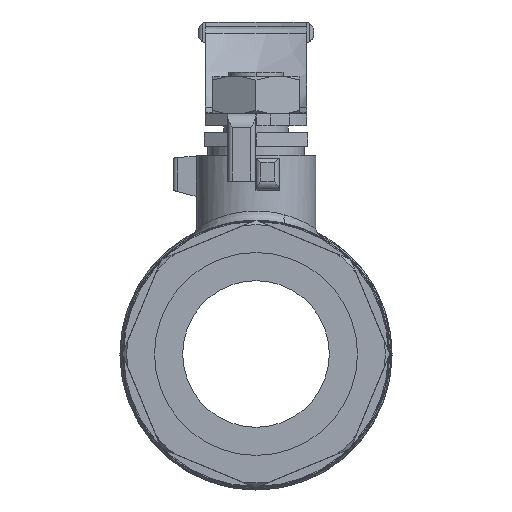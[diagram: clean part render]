
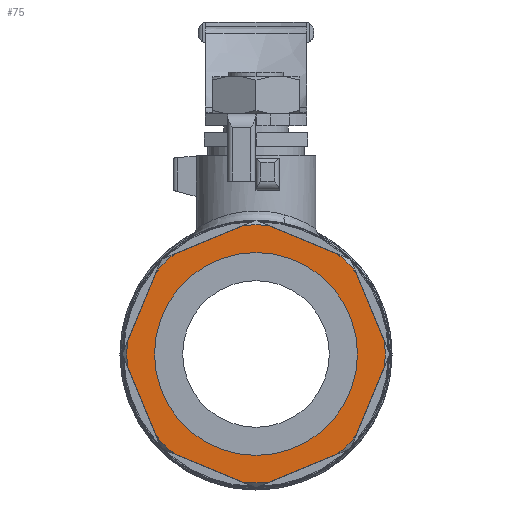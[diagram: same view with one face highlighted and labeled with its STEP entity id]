
A CAD part, left-side view. The second image highlights one B-rep face of the part: STEP entity #75.
In plain terms, the highlighted planar face has unit normal (-1, 0, 0).
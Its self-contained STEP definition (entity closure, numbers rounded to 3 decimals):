
#75=ADVANCED_FACE('',(#580,#581),#579,.T.);
#579=PLANE('',#2337);
#580=FACE_OUTER_BOUND('',#2338,.T.);
#581=FACE_BOUND('',#2339,.T.);
#2334=CARTESIAN_POINT('',(-48.,-33.757,-33.757));
#2335=DIRECTION('',(-1.,0.,0.));
#2336=DIRECTION('',(0.,0.,1.));
#2337=AXIS2_PLACEMENT_3D('',#2334,#2335,#2336);
#2338=EDGE_LOOP('',(#3949,#3950,#3951,#3952,#3953,#3954,#3955,#3956,#3957,#3958,#3959,#3960,#3961,#3962,#3963,#3964));
#2339=EDGE_LOOP('',(#3965,#3966));
#3949=ORIENTED_EDGE('',*,*,#4891,.F.);
#3950=ORIENTED_EDGE('',*,*,#4892,.T.);
#3951=ORIENTED_EDGE('',*,*,#4795,.F.);
#3952=ORIENTED_EDGE('',*,*,#4893,.T.);
#3953=ORIENTED_EDGE('',*,*,#4894,.F.);
#3954=ORIENTED_EDGE('',*,*,#4895,.T.);
#3955=ORIENTED_EDGE('',*,*,#4896,.F.);
#3956=ORIENTED_EDGE('',*,*,#4897,.T.);
#3957=ORIENTED_EDGE('',*,*,#4784,.F.);
#3958=ORIENTED_EDGE('',*,*,#4898,.T.);
#3959=ORIENTED_EDGE('',*,*,#4899,.F.);
#3960=ORIENTED_EDGE('',*,*,#4900,.T.);
#3961=ORIENTED_EDGE('',*,*,#4901,.F.);
#3962=ORIENTED_EDGE('',*,*,#4793,.T.);
#3963=ORIENTED_EDGE('',*,*,#4803,.F.);
#3964=ORIENTED_EDGE('',*,*,#4902,.T.);
#3965=ORIENTED_EDGE('',*,*,#4903,.T.);
#3966=ORIENTED_EDGE('',*,*,#4904,.T.);
#4784=EDGE_CURVE('',#5697,#5704,#5705,.T.);
#4793=EDGE_CURVE('',#5753,#5760,#5767,.T.);
#4795=EDGE_CURVE('',#5774,#5781,#5782,.T.);
#4803=EDGE_CURVE('',#5830,#5760,#5837,.T.);
#4891=EDGE_CURVE('',#6435,#6436,#6437,.T.);
#4892=EDGE_CURVE('',#6435,#5781,#6443,.T.);
#4893=EDGE_CURVE('',#5774,#6449,#6450,.T.);
#4894=EDGE_CURVE('',#6456,#6449,#6457,.T.);
#4895=EDGE_CURVE('',#6456,#6463,#6464,.T.);
#4896=EDGE_CURVE('',#6470,#6463,#6471,.T.);
#4897=EDGE_CURVE('',#6470,#5704,#6477,.T.);
#4898=EDGE_CURVE('',#5697,#6483,#6484,.T.);
#4899=EDGE_CURVE('',#6490,#6483,#6491,.T.);
#4900=EDGE_CURVE('',#6490,#6497,#6498,.T.);
#4901=EDGE_CURVE('',#5753,#6497,#6504,.T.);
#4902=EDGE_CURVE('',#5830,#6436,#6510,.T.);
#4903=EDGE_CURVE('',#6516,#6517,#6518,.T.);
#4904=EDGE_CURVE('',#6517,#6516,#6524,.T.);
#5697=VERTEX_POINT('',#8865);
#5704=VERTEX_POINT('',#8870);
#5705=LINE('',#8871,#8872);
#5753=VERTEX_POINT('',#8904);
#5760=VERTEX_POINT('',#8909);
#5767=CIRCLE('',#8917,27.995);
#5774=VERTEX_POINT('',#8919);
#5781=VERTEX_POINT('',#8924);
#5782=LINE('',#8925,#8926);
#5830=VERTEX_POINT('',#8959);
#5837=LINE('',#8964,#8965);
#6435=VERTEX_POINT('',#9362);
#6436=VERTEX_POINT('',#9363);
#6437=LINE('',#9364,#9365);
#6443=CIRCLE('',#9370,27.995);
#6449=VERTEX_POINT('',#9371);
#6450=CIRCLE('',#9375,27.995);
#6456=VERTEX_POINT('',#9376);
#6457=LINE('',#9377,#9378);
#6463=VERTEX_POINT('',#9380);
#6464=CIRCLE('',#9384,27.995);
#6470=VERTEX_POINT('',#9385);
#6471=LINE('',#9386,#9387);
#6477=CIRCLE('',#9392,27.995);
#6483=VERTEX_POINT('',#9393);
#6484=CIRCLE('',#9397,27.995);
#6490=VERTEX_POINT('',#9398);
#6491=LINE('',#9399,#9400);
#6497=VERTEX_POINT('',#9402);
#6498=CIRCLE('',#9406,27.995);
#6504=LINE('',#9407,#9408);
#6510=CIRCLE('',#9413,27.995);
#6516=VERTEX_POINT('',#9414);
#6517=VERTEX_POINT('',#9415);
#6518=CIRCLE('',#9419,22.005);
#6524=CIRCLE('',#9423,22.005);
#8865=CARTESIAN_POINT('',(-48.,-2.756,27.859));
#8870=CARTESIAN_POINT('',(-48.,-17.75,21.648));
#8871=CARTESIAN_POINT('',(-48.,-2.756,27.859));
#8872=VECTOR('',#8873,16.23);
#8873=DIRECTION('',(0.,-0.924,-0.383));
#8904=CARTESIAN_POINT('',(-48.,27.859,2.756));
#8909=CARTESIAN_POINT('',(-48.,27.859,-2.756));
#8914=CARTESIAN_POINT('',(-48.,0.,0.));
#8915=DIRECTION('',(-1.,0.,0.));
#8916=DIRECTION('',(0.,0.,-1.));
#8917=AXIS2_PLACEMENT_3D('',#8914,#8915,#8916);
#8919=CARTESIAN_POINT('',(-48.,-17.75,-21.648));
#8924=CARTESIAN_POINT('',(-48.,-2.756,-27.859));
#8925=CARTESIAN_POINT('',(-48.,-17.75,-21.648));
#8926=VECTOR('',#8927,16.23);
#8927=DIRECTION('',(0.,0.924,-0.383));
#8959=CARTESIAN_POINT('',(-48.,21.648,-17.75));
#8964=CARTESIAN_POINT('',(-48.,21.648,-17.75));
#8965=VECTOR('',#8966,16.23);
#8966=DIRECTION('',(0.,0.383,0.924));
#9362=CARTESIAN_POINT('',(-48.,2.756,-27.859));
#9363=CARTESIAN_POINT('',(-48.,17.75,-21.648));
#9364=CARTESIAN_POINT('',(-48.,2.756,-27.859));
#9365=VECTOR('',#9366,16.23);
#9366=DIRECTION('',(0.,0.924,0.383));
#9367=CARTESIAN_POINT('',(-48.,0.,0.));
#9368=DIRECTION('',(-1.,0.,0.));
#9369=DIRECTION('',(0.,0.098,-0.995));
#9370=AXIS2_PLACEMENT_3D('',#9367,#9368,#9369);
#9371=CARTESIAN_POINT('',(-48.,-21.648,-17.75));
#9372=CARTESIAN_POINT('',(-48.,0.,0.));
#9373=DIRECTION('',(-1.,0.,0.));
#9374=DIRECTION('',(0.,0.,-1.));
#9375=AXIS2_PLACEMENT_3D('',#9372,#9373,#9374);
#9376=CARTESIAN_POINT('',(-48.,-27.859,-2.756));
#9377=CARTESIAN_POINT('',(-48.,-27.859,-2.756));
#9378=VECTOR('',#9379,16.23);
#9379=DIRECTION('',(0.,0.383,-0.924));
#9380=CARTESIAN_POINT('',(-48.,-27.859,2.756));
#9381=CARTESIAN_POINT('',(-48.,0.,0.));
#9382=DIRECTION('',(-1.,0.,0.));
#9383=DIRECTION('',(0.,0.,-1.));
#9384=AXIS2_PLACEMENT_3D('',#9381,#9382,#9383);
#9385=CARTESIAN_POINT('',(-48.,-21.648,17.75));
#9386=CARTESIAN_POINT('',(-48.,-21.648,17.75));
#9387=VECTOR('',#9388,16.23);
#9388=DIRECTION('',(0.,-0.383,-0.924));
#9389=CARTESIAN_POINT('',(-48.,0.,0.));
#9390=DIRECTION('',(-1.,0.,0.));
#9391=DIRECTION('',(0.,0.,-1.));
#9392=AXIS2_PLACEMENT_3D('',#9389,#9390,#9391);
#9393=CARTESIAN_POINT('',(-48.,2.756,27.859));
#9394=CARTESIAN_POINT('',(-48.,0.,0.));
#9395=DIRECTION('',(-1.,0.,0.));
#9396=DIRECTION('',(0.,0.,-1.));
#9397=AXIS2_PLACEMENT_3D('',#9394,#9395,#9396);
#9398=CARTESIAN_POINT('',(-48.,17.75,21.648));
#9399=CARTESIAN_POINT('',(-48.,17.75,21.648));
#9400=VECTOR('',#9401,16.23);
#9401=DIRECTION('',(0.,-0.924,0.383));
#9402=CARTESIAN_POINT('',(-48.,21.648,17.75));
#9403=CARTESIAN_POINT('',(-48.,0.,0.));
#9404=DIRECTION('',(-1.,0.,0.));
#9405=DIRECTION('',(0.,0.,-1.));
#9406=AXIS2_PLACEMENT_3D('',#9403,#9404,#9405);
#9407=CARTESIAN_POINT('',(-48.,27.859,2.756));
#9408=VECTOR('',#9409,16.23);
#9409=DIRECTION('',(0.,-0.383,0.924));
#9410=CARTESIAN_POINT('',(-48.,0.,0.));
#9411=DIRECTION('',(-1.,0.,0.));
#9412=DIRECTION('',(0.,0.,-1.));
#9413=AXIS2_PLACEMENT_3D('',#9410,#9411,#9412);
#9414=CARTESIAN_POINT('',(-48.,0.,22.005));
#9415=CARTESIAN_POINT('',(-48.,0.,-22.005));
#9416=CARTESIAN_POINT('',(-48.,0.,0.));
#9417=DIRECTION('',(1.,0.,0.));
#9418=DIRECTION('',(0.,0.,1.));
#9419=AXIS2_PLACEMENT_3D('',#9416,#9417,#9418);
#9420=CARTESIAN_POINT('',(-48.,0.,0.));
#9421=DIRECTION('',(1.,0.,0.));
#9422=DIRECTION('',(0.,0.,1.));
#9423=AXIS2_PLACEMENT_3D('',#9420,#9421,#9422);
